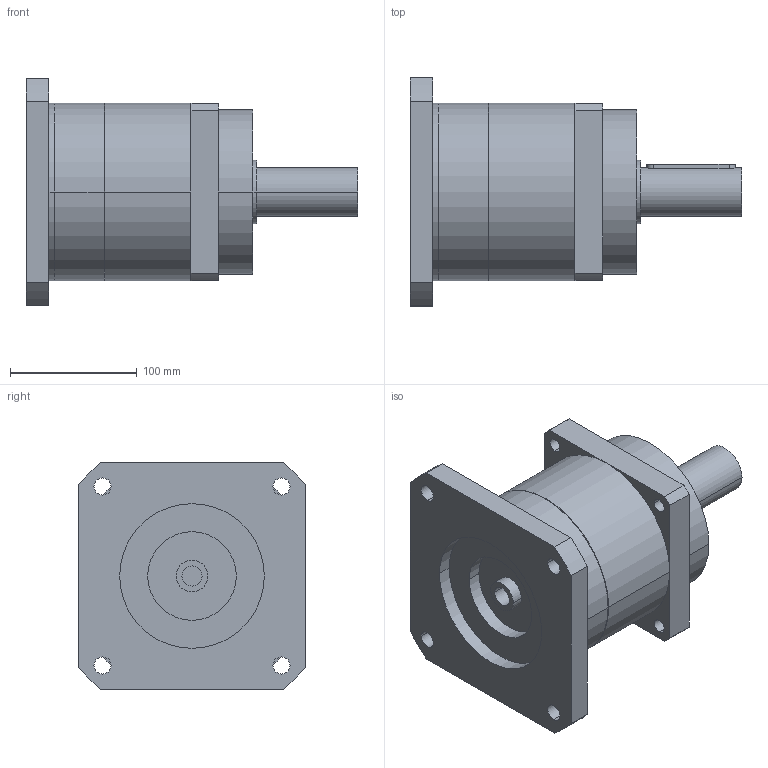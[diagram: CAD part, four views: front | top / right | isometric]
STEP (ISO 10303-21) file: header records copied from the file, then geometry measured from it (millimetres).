
FILE_DESCRIPTION(('CoCreate Modeling STEP Export'),'2;1');
FILE_NAME('GPR150_ig-3-4-5-7_38_B5_16_P09.stp','2014-08-19T16:41:53',(''),(''),'CoCreate Modeling STEP processor for AP214 (Solid Model)','CoCreate Modeling 16.00C 25-Feb-2009 (C) Parametric Technology GmbH','');
FILE_SCHEMA(('AUTOMOTIVE_DESIGN { 1 0 10303 214 1 1 1 1 }'));
Length unit declared in the file: millimetre
Products named in the file (2): GPR150_ig-3-4-5-7_38_B5_16_P09
Assembly tree (1 placements, depth 2):
  GPR150_ig-3-4-5-7_38_B5_16_P09
    GPR150_ig-3-4-5-7_38_B5_16_P09
Bounding box: 262 x 180 x 180 mm (x, y, z)
Volume: 3004129.8 mm3; surface area: 180976.2 mm2
Topology: 1 solids, 1 shells, 81 faces, 221 edges, 151 vertices
Faces by surface type: cylinder 48, plane 27, cone 6
Entity records: 2330 total; most frequent: ORIENTED_EDGE 438, CARTESIAN_POINT 432, DIRECTION 330, EDGE_CURVE 219, VERTEX_POINT 151, AXIS2_PLACEMENT_3D 121, EDGE_LOOP 108, VECTOR 88
